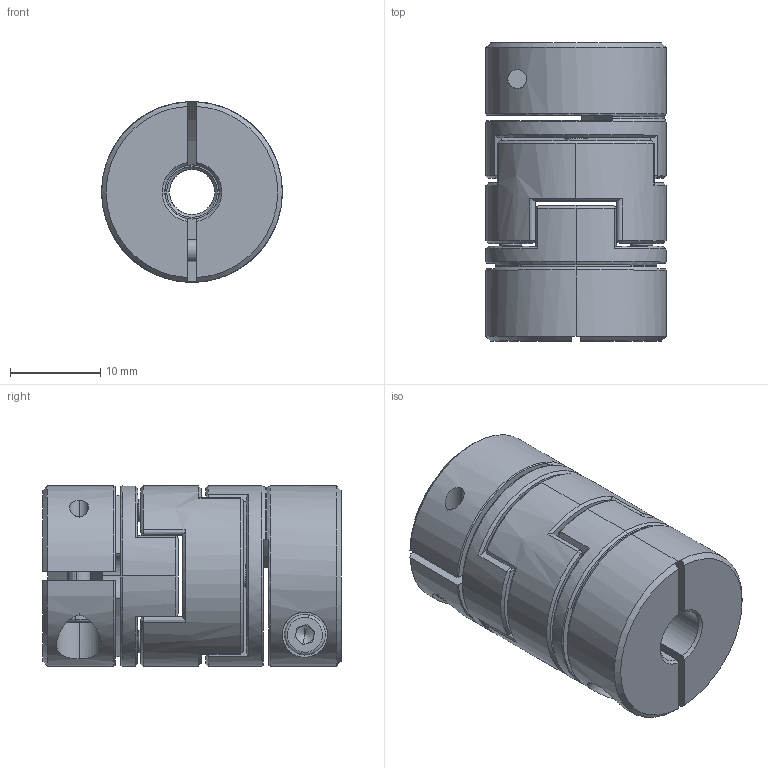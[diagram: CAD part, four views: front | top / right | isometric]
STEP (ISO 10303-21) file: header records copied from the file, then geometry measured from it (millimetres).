
FILE_DESCRIPTION (( 'STEP AP203' ), '1' );
FILE_NAME ('LZ-B-D20L33-5-6.STEP', '2021-10-29T05:35:51', ( '' ), ( '' ), 'SwSTEP 2.0', 'SolidWorks 2018', '' );
FILE_SCHEMA (( 'CONFIG_CONTROL_DESIGN' ));
Length unit declared in the file: millimetre
Products named in the file (1): LZ-B-D20L33-5-6
Bounding box: 20 x 33 x 20 mm (x, y, z)
Volume: 8687 mm3; surface area: 6109.3 mm2
Topology: 3 solids, 3 shells, 248 faces, 632 edges, 400 vertices
Faces by surface type: plane 112, cylinder 64, cone 42, bspline 26, torus 4
Entity records: 10263 total; most frequent: CARTESIAN_POINT 4455, ORIENTED_EDGE 1256, DIRECTION 1116, EDGE_CURVE 628, AXIS2_PLACEMENT_3D 431, VERTEX_POINT 400, EDGE_LOOP 276, LINE 254
